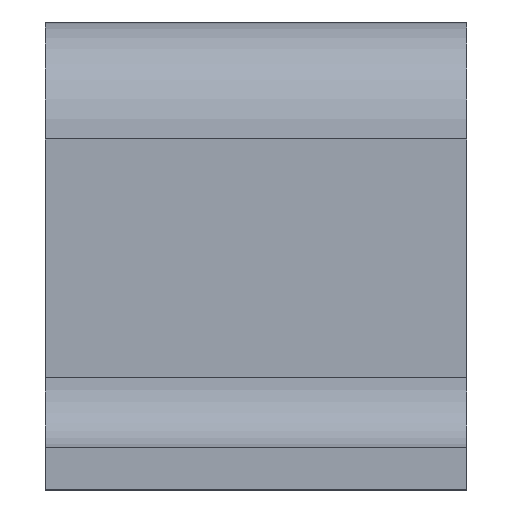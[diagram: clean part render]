
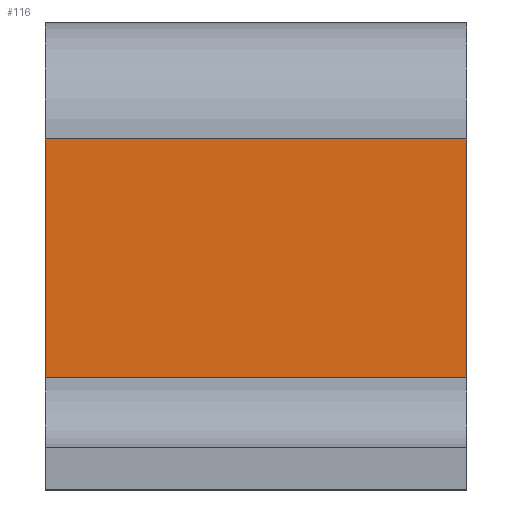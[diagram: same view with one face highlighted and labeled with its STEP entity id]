
A CAD part, front view. The second image highlights one B-rep face of the part: STEP entity #116.
In plain terms, the highlighted planar face has unit normal (0, -1, 0).
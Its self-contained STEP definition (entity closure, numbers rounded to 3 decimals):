
#116 = ADVANCED_FACE( '', ( #239 ), #240, .F. );
#239 = FACE_OUTER_BOUND( '', #354, .T. );
#240 = PLANE( '', #355 );
#354 = EDGE_LOOP( '', ( #633, #634, #635, #636 ) );
#355 = AXIS2_PLACEMENT_3D( '', #637, #638, #639 );
#633 = ORIENTED_EDGE( '', *, *, #755, .T. );
#634 = ORIENTED_EDGE( '', *, *, #730, .F. );
#635 = ORIENTED_EDGE( '', *, *, #740, .F. );
#636 = ORIENTED_EDGE( '', *, *, #752, .T. );
#637 = CARTESIAN_POINT( '', ( 9., 12.5, 15. ) );
#638 = DIRECTION( '', ( 0., 1., 0. ) );
#639 = DIRECTION( '', ( 0., 0., 1. ) );
#730 = EDGE_CURVE( '', #890, #888, #892, .T. );
#740 = EDGE_CURVE( '', #903, #890, #905, .T. );
#752 = EDGE_CURVE( '', #903, #918, #920, .T. );
#755 = EDGE_CURVE( '', #918, #888, #923, .T. );
#888 = VERTEX_POINT( '', #1099 );
#890 = VERTEX_POINT( '', #1101 );
#892 = LINE( '', #1103, #1104 );
#903 = VERTEX_POINT( '', #1117 );
#905 = LINE( '', #1119, #1120 );
#918 = VERTEX_POINT( '', #1136 );
#920 = LINE( '', #1138, #1139 );
#923 = LINE( '', #1142, #1143 );
#1099 = CARTESIAN_POINT( '', ( -9., 12.5, 4.8 ) );
#1101 = CARTESIAN_POINT( '', ( 9., 12.5, 4.8 ) );
#1103 = CARTESIAN_POINT( '', ( 9., 12.5, 4.8 ) );
#1104 = VECTOR( '', #1251, 1000. );
#1117 = CARTESIAN_POINT( '', ( 9., 12.5, 15. ) );
#1119 = CARTESIAN_POINT( '', ( 9., 12.5, 15. ) );
#1120 = VECTOR( '', #1263, 1000. );
#1136 = CARTESIAN_POINT( '', ( -9., 12.5, 15. ) );
#1138 = CARTESIAN_POINT( '', ( 9., 12.5, 15. ) );
#1139 = VECTOR( '', #1279, 1000. );
#1142 = CARTESIAN_POINT( '', ( -9., 12.5, 15. ) );
#1143 = VECTOR( '', #1283, 1000. );
#1251 = DIRECTION( '', ( -1., 0., 0. ) );
#1263 = DIRECTION( '', ( 0., 0., -1. ) );
#1279 = DIRECTION( '', ( -1., 0., 0. ) );
#1283 = DIRECTION( '', ( 0., 0., -1. ) );
